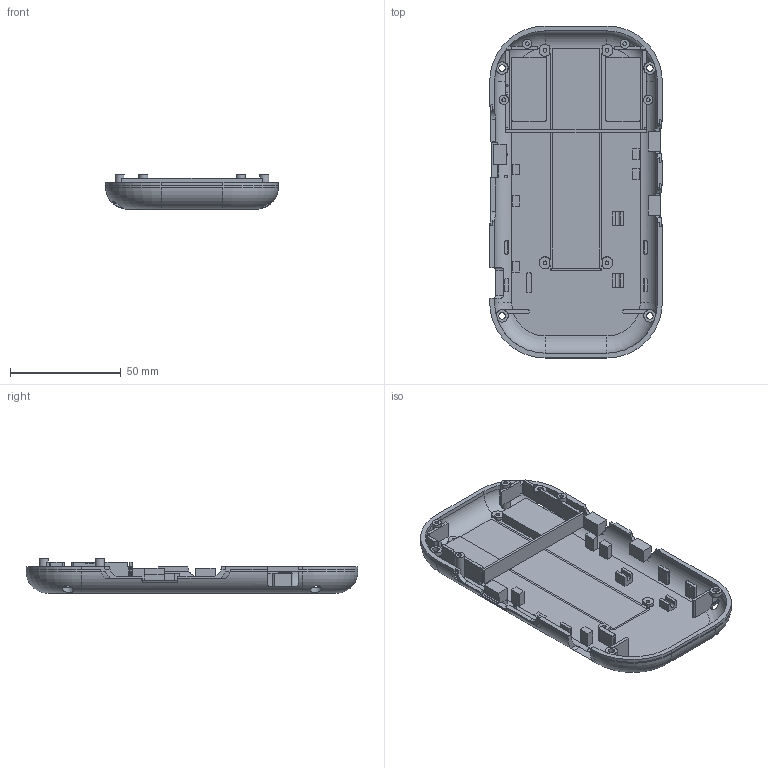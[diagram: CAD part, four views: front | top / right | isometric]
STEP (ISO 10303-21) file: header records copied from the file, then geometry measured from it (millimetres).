
FILE_DESCRIPTION(/* description */ (''),/* implementation_level */ '2;1');
FILE_NAME(/* name */ 'P02.step',/* time_stamp */ '2026-09-14T14:49:32-07:00',/* author */ (''),/* organization */ (''),/* preprocessor_version */ 'ST-DEVELOPER v20.1',/* originating_system */ 'Autodesk Translation Framework v15.8.0.0',/* authorisation */ '');
FILE_SCHEMA (('AUTOMOTIVE_DESIGN { 1 0 10303 214 3 1 1 }'));
Length unit declared in the file: millimetre
Products named in the file (1): 2026-09-14-14-49-32-565
Bounding box: 78 x 150 x 15.65 mm (x, y, z)
Volume: 36972.7 mm3; surface area: 33832.8 mm2
Topology: 1 solids, 1 shells, 595 faces, 1791 edges, 1226 vertices
Faces by surface type: plane 390, cylinder 173, torus 18, cone 14
Full cylindrical faces by diameter (mm): 1.7 x8, 2.9 x4, 4.2 x4
Entity records: 24081 total; most frequent: CARTESIAN_POINT 7687, ORIENTED_EDGE 3582, DIRECTION 3292, EDGE_CURVE 1791, VERTEX_POINT 1226, AXIS2_PLACEMENT_3D 1101, LINE 1090, VECTOR 1090
